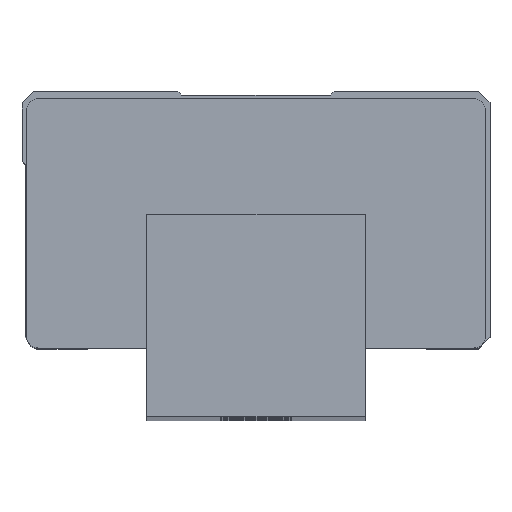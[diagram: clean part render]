
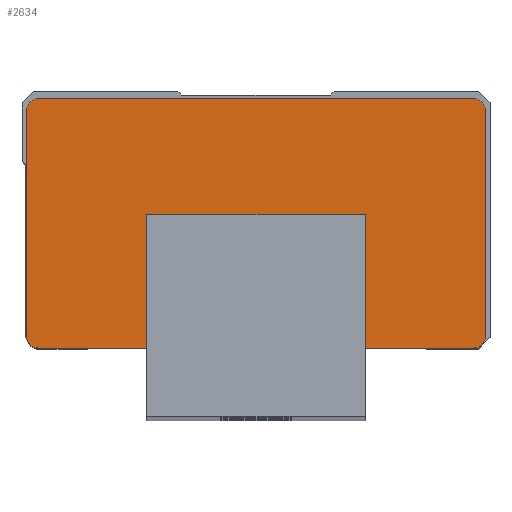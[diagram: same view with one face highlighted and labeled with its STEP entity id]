
A CAD part, top view. The second image highlights one B-rep face of the part: STEP entity #2634.
In plain terms, the highlighted planar face has unit normal (0, 0, 1).
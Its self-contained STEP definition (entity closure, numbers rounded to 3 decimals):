
#2240=CARTESIAN_POINT('',(-13.9,41.05,153.6));
#2241=VERTEX_POINT('',#2240);
#2242=CARTESIAN_POINT('',(41.908,41.05,153.6));
#2243=VERTEX_POINT('',#2242);
#2244=CARTESIAN_POINT('',(-13.9,41.05,153.6));
#2245=DIRECTION('',(1.0,0.0,0.0));
#2246=VECTOR('',#2245,1.0);
#2247=LINE('',#2244,#2246);
#2248=EDGE_CURVE('',#2241,#2243,#2247,.T.);
#2280=CARTESIAN_POINT('',(43.4,39.55,153.6));
#2281=VERTEX_POINT('',#2280);
#2282=CARTESIAN_POINT('',(41.9,39.55,153.6));
#2283=DIRECTION('',(0.,0.,-1.0));
#2284=DIRECTION('',(0.006,1.,0.));
#2285=AXIS2_PLACEMENT_3D('',#2282,#2283,#2284);
#2286=CIRCLE('',#2285,1.5);
#2287=EDGE_CURVE('',#2243,#2281,#2286,.T.);
#2313=CARTESIAN_POINT('',(43.4,10.55,153.6));
#2314=VERTEX_POINT('',#2313);
#2315=CARTESIAN_POINT('',(43.4,39.55,153.6));
#2316=DIRECTION('',(0.0,-1.0,0.0));
#2317=VECTOR('',#2316,1.0);
#2318=LINE('',#2315,#2317);
#2319=EDGE_CURVE('',#2281,#2314,#2318,.T.);
#2344=CARTESIAN_POINT('',(41.9,9.05,153.6));
#2345=VERTEX_POINT('',#2344);
#2346=CARTESIAN_POINT('',(41.9,10.55,153.6));
#2347=DIRECTION('',(0.0,0.0,-1.0));
#2348=DIRECTION('',(1.0,0.0,0.0));
#2349=AXIS2_PLACEMENT_3D('',#2346,#2347,#2348);
#2350=CIRCLE('',#2349,1.5);
#2351=EDGE_CURVE('',#2314,#2345,#2350,.T.);
#2377=CARTESIAN_POINT('',(28.,9.05,153.6));
#2378=VERTEX_POINT('',#2377);
#2379=CARTESIAN_POINT('',(41.9,9.05,153.6));
#2380=DIRECTION('',(-1.0,0.0,0.0));
#2381=VECTOR('',#2380,1.0);
#2382=LINE('',#2379,#2381);
#2383=EDGE_CURVE('',#2345,#2378,#2382,.T.);
#2408=CARTESIAN_POINT('',(28.,26.,153.6));
#2409=VERTEX_POINT('',#2408);
#2410=CARTESIAN_POINT('',(28.,9.05,153.6));
#2411=DIRECTION('',(0.0,1.0,0.0));
#2412=VECTOR('',#2411,1.);
#2413=LINE('',#2410,#2412);
#2414=EDGE_CURVE('',#2378,#2409,#2413,.T.);
#2439=CARTESIAN_POINT('',(0.,26.,153.6));
#2440=VERTEX_POINT('',#2439);
#2441=CARTESIAN_POINT('',(28.,26.,153.6));
#2442=DIRECTION('',(-1.0,0.0,0.0));
#2443=VECTOR('',#2442,1.0);
#2444=LINE('',#2441,#2443);
#2445=EDGE_CURVE('',#2409,#2440,#2444,.T.);
#2470=CARTESIAN_POINT('',(0.,9.05,153.6));
#2471=VERTEX_POINT('',#2470);
#2472=CARTESIAN_POINT('',(0.,26.,153.6));
#2473=DIRECTION('',(0.0,-1.0,0.0));
#2474=VECTOR('',#2473,1.0);
#2475=LINE('',#2472,#2474);
#2476=EDGE_CURVE('',#2440,#2471,#2475,.T.);
#2501=CARTESIAN_POINT('',(-13.9,9.05,153.6));
#2502=VERTEX_POINT('',#2501);
#2503=CARTESIAN_POINT('',(0.,9.05,153.6));
#2504=DIRECTION('',(-1.,0.,0.0));
#2505=VECTOR('',#2504,1.);
#2506=LINE('',#2503,#2505);
#2507=EDGE_CURVE('',#2471,#2502,#2506,.T.);
#2532=CARTESIAN_POINT('',(-15.4,10.55,153.6));
#2533=VERTEX_POINT('',#2532);
#2534=CARTESIAN_POINT('',(-13.9,10.55,153.6));
#2535=DIRECTION('',(0.,0.,-1.0));
#2536=DIRECTION('',(0.,-1.0,0.));
#2537=AXIS2_PLACEMENT_3D('',#2534,#2535,#2536);
#2538=CIRCLE('',#2537,1.5);
#2539=EDGE_CURVE('',#2502,#2533,#2538,.T.);
#2565=CARTESIAN_POINT('',(-15.4,39.55,153.6));
#2566=VERTEX_POINT('',#2565);
#2567=CARTESIAN_POINT('',(-15.4,10.55,153.6));
#2568=DIRECTION('',(0.0,1.0,0.0));
#2569=VECTOR('',#2568,1.0);
#2570=LINE('',#2567,#2569);
#2571=EDGE_CURVE('',#2533,#2566,#2570,.T.);
#2596=CARTESIAN_POINT('',(-13.9,39.55,153.6));
#2597=DIRECTION('',(0.,0.,-1.0));
#2598=DIRECTION('',(-1.0,0.,0.));
#2599=AXIS2_PLACEMENT_3D('',#2596,#2597,#2598);
#2600=CIRCLE('',#2599,1.5);
#2601=EDGE_CURVE('',#2566,#2241,#2600,.T.);
#2615=CARTESIAN_POINT('',(-18.34,7.45,153.6));
#2616=DIRECTION('',(0.0,0.0,1.0));
#2617=DIRECTION('',(1.0,0.0,0.0));
#2618=AXIS2_PLACEMENT_3D('',#2615,#2616,#2617);
#2619=PLANE('',#2618);
#2620=ORIENTED_EDGE('',*,*,#2248,.F.);
#2621=ORIENTED_EDGE('',*,*,#2601,.F.);
#2622=ORIENTED_EDGE('',*,*,#2571,.F.);
#2623=ORIENTED_EDGE('',*,*,#2539,.F.);
#2624=ORIENTED_EDGE('',*,*,#2507,.F.);
#2625=ORIENTED_EDGE('',*,*,#2476,.F.);
#2626=ORIENTED_EDGE('',*,*,#2445,.F.);
#2627=ORIENTED_EDGE('',*,*,#2414,.F.);
#2628=ORIENTED_EDGE('',*,*,#2383,.F.);
#2629=ORIENTED_EDGE('',*,*,#2351,.F.);
#2630=ORIENTED_EDGE('',*,*,#2319,.F.);
#2631=ORIENTED_EDGE('',*,*,#2287,.F.);
#2632=EDGE_LOOP('',(#2620,#2621,#2622,#2623,#2624,#2625,#2626,#2627,#2628,#2629,#2630,#2631));
#2633=FACE_OUTER_BOUND('',#2632,.T.);
#2634=ADVANCED_FACE('',(#2633),#2619,.T.);
